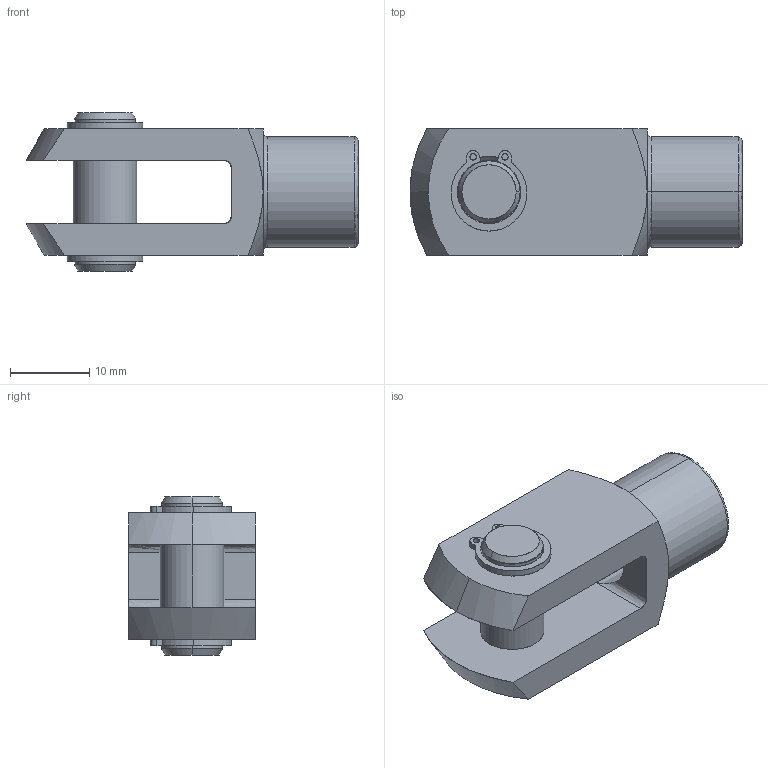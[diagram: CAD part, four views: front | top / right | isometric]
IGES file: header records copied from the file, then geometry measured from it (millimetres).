
Start section: SolidWorks IGES file using analytic representation for surfaces
Global section: file name: C:\Documents and Settings\IANO\My Documents\Wix and Auto CAD Work\CAD Models\Parametric Models\Wix Models\60000\65614_v2\65614_v2_IGES\65614.W0081.igs; native system: SolidWorks 2009; preprocessor: SolidWorks 2009; author: IANO; date: 140118.103849; units: millimetre
Bounding box: 42 x 16 x 20 mm (x, y, z)
Surface area: 4217.6 mm2 (no closed solid volume)
Topology: 0 solids, 0 shells, 91 faces, 1504 edges, 1504 vertices
Faces by surface type: revolution 59, bspline 32
